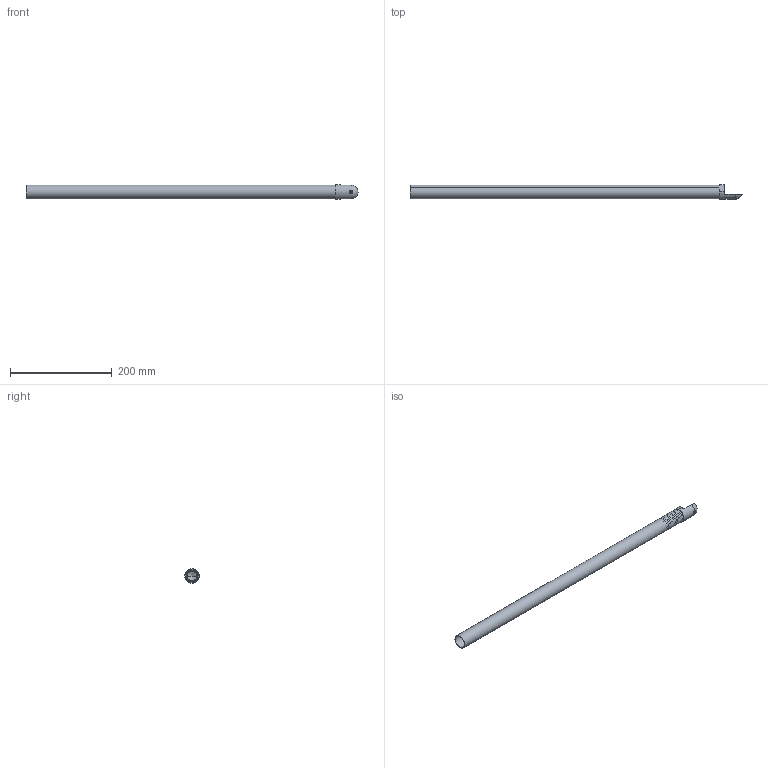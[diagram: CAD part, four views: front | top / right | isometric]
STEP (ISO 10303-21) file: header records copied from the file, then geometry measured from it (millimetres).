
FILE_DESCRIPTION (( 'STEP AP214' ), '1' );
FILE_NAME ('Single Sided Clevis Connector with Threads.STEP', '2013-08-19T13:06:19', ( 'ydmin' ), ( 'Microsoft' ), 'SwSTEP 2.0', 'SolidWorks 2013', '' );
FILE_SCHEMA (( 'AUTOMOTIVE_DESIGN' ));
Length unit declared in the file: inch
Products named in the file (4): 6.000 Inch Tube; 91990A255 (1)_91990A255; DRP-002-0512-00_LEFT-TO-RIGHT OUTER TUBE INSERT; Single Sided Clevis Connector with Threads
Assembly tree (3 placements, depth 2):
  Single Sided Clevis Connector with Threads
    DRP-002-0512-00_LEFT-TO-RIGHT OUTER TUBE INSERT
    91990A255 (1)_91990A255
    6.000 Inch Tube
Bounding box: 653.96 x 28.57 x 28.57 mm (x, y, z)
Volume: 70094 mm3; surface area: 113974.1 mm2
Topology: 3 solids, 3 shells, 237 faces, 692 edges, 459 vertices
Faces by surface type: cylinder 109, plane 109, torus 8, bspline 8, cone 2, sphere 1
Entity records: 9668 total; most frequent: CARTESIAN_POINT 3055, DIRECTION 1386, ORIENTED_EDGE 1380, EDGE_CURVE 690, AXIS2_PLACEMENT_3D 484, VERTEX_POINT 459, LINE 418, VECTOR 418
